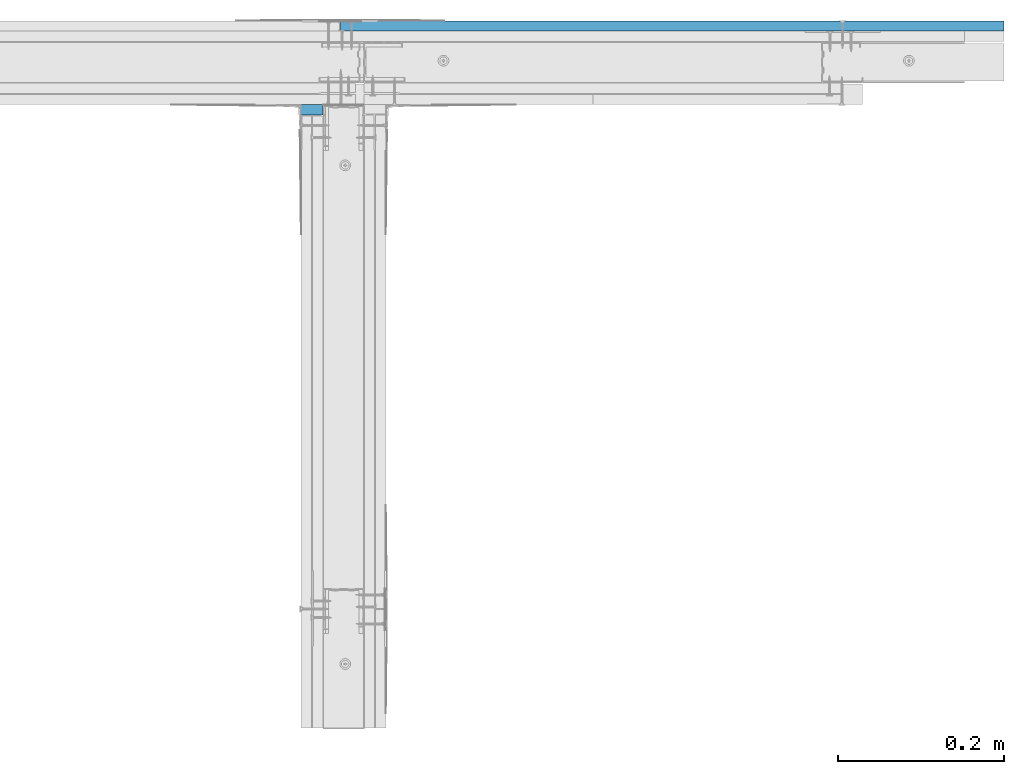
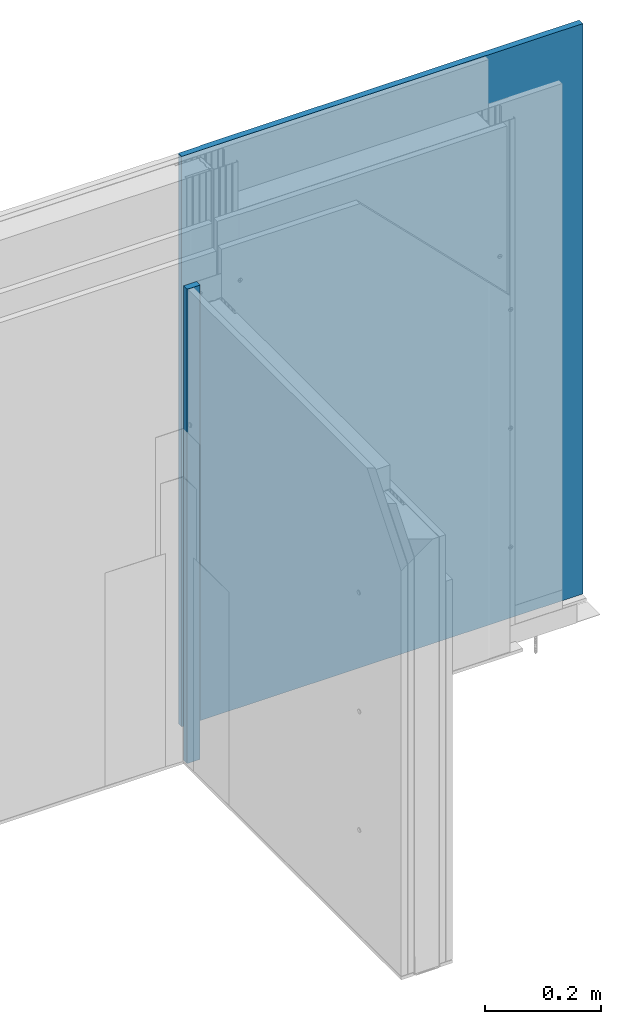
# One storey, part 6 of 95: 2 walls.
"""IFC2X3 building model written with IfcOpenShell, lengths in millimetres."""

from ifc_helpers import new_model, entity, si_unit, converted_unit, direction, frame, origin, origin_with_axes, place, context, project, spatial, faceted_brep, element, save


model = new_model("IFC2X3")

# Units and contexts
model_context = context("Model", 3, precision=1e-05, world=origin(), true_north=direction((0.0, 1.0, 0.0)))
ifc_project = project(units=[si_unit("LENGTHUNIT", "METRE", prefix="MILLI"), si_unit("AREAUNIT", "SQUARE_METRE"), si_unit("VOLUMEUNIT", "CUBIC_METRE"), converted_unit("PLANEANGLEUNIT", "DEGREE", entity("IfcPlaneAngleMeasure", 0.01745), si_unit("PLANEANGLEUNIT", "RADIAN"), dimensions=[0, 0, 0, 0, 0, 0, 0]), si_unit("SOLIDANGLEUNIT", "STERADIAN"), si_unit("MASSUNIT", "GRAM"), si_unit("TIMEUNIT", "SECOND"), si_unit("THERMODYNAMICTEMPERATUREUNIT", "DEGREE_CELSIUS"), si_unit("LUMINOUSINTENSITYUNIT", "LUMEN")], contexts=[model_context])

# Site, building, storey
site_placement = place(None, origin_with_axes())
site = spatial("IfcSite", under=ifc_project, at=site_placement, Name="Default Site", CompositionType="ELEMENT")
building_placement = place(site_placement, origin_with_axes())
building = spatial("IfcBuilding", under=site, at=building_placement, Name="Default Building", CompositionType="ELEMENT")
storey_placement = place(building_placement, origin_with_axes())
storey = spatial("IfcBuildingStorey", under=building, at=storey_placement, Name="Default Building Storey", CompositionType="ELEMENT", Elevation=0.0)

# Walls
wall_1_placement = place(storey_placement, frame((2790.120278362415, 2010.770002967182, -205.1555179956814), z_axis=(-2.220446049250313e-16, 1.0, -8.881784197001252e-16), x_axis=(1.97215226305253e-31, -8.881784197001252e-16, -1.0)))
element("IfcWall", 1, at=wall_1_placement, inside=storey, Name="Dedykowana masa szpachlowa Rigips - konstrukcyjna", context=model_context, shape_type="Brep", body=[
    faceted_brep([(-215.1539363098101, 24.6461696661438, -0.9999999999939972), (-215.1539363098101, -1.353830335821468, -0.9999999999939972), (-1213.404515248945, -1.353830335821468, -0.9999999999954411), (-1213.404515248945, 24.6461696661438, -0.9999999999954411), (-215.1539363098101, -1.353830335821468, 11.37091977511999), (-1213.404515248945, -1.353830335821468, 11.37091977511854), (-215.1539363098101, 24.6461696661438, 11.37091977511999), (-1213.404515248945, 24.6461696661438, 11.37091977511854)], [[[0, 1, 2, 3]], [[1, 4, 5, 2]], [[4, 6, 7, 5]], [[6, 0, 3, 7]], [[7, 3, 2, 5]], [[0, 6, 4, 1]]]),
])
wall_2_placement = place(storey_placement, frame((2812.544899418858, 2110.601767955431, 1155.534172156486), z_axis=(0.0, 0.0, 1.0), x_axis=(1.0, 0.0, 0.0)))
element("IfcWall", 2, at=wall_2_placement, inside=storey, Name="Płyta gipsowo-kartonowa RIGIPS PRO (4PRO™)", context=model_context, shape_type="Brep", body=[
    faceted_brep([(798.6109695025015, 12.49999999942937, 54.46582784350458), (798.610969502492, -5.428773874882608e-10, 54.46582784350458), (798.610969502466, -5.396287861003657e-10, -1145.535753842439), (798.6109695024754, 12.49999999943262, -1145.535753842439), (44.99999999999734, 12.50000000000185, 54.46582784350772), (40.99999999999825, 11.50000000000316, 54.46582784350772), (0.9999999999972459, 11.50000000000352, 54.46582784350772), (0.7411809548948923, 11.46592582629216, 54.46582784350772), (0.4999999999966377, 11.36602540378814, 54.46582784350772), (0.2928932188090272, 11.20710678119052, 54.46582784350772), (0.1339745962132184, 11.00000000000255, 54.46582784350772), (0.0340741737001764, 10.75881904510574, 54.46582784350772), (-3.248601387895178e-12, 10.50000000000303, 54.46582784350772), (-1.082867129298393e-12, -3.609557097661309e-13, 54.46582784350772), (44.99999999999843, 12.50000000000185, -1145.53575384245), (40.99999999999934, 11.50000000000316, -1145.53575384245), (0.9999999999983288, 11.50000000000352, -1145.53575384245), (0.7411809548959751, 11.46592582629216, -1145.53575384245), (0.4999999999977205, 11.36602540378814, -1145.53575384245), (0.29289321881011, 11.20710678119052, -1145.53575384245), (0.1339745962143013, 11.00000000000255, -1145.53575384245), (0.03407417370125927, 10.75881904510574, -1145.53575384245), (-2.165734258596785e-12, 10.50000000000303, -1145.53575384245), (0.0, -3.609557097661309e-13, -1145.53575384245)], [[[0, 1, 2, 3]], [[0, 4, 5, 6, 7, 8, 9, 10, 11, 12, 13, 1]], [[3, 14, 4, 0]], [[5, 4, 14, 15]], [[6, 5, 15, 16]], [[7, 6, 16, 17]], [[8, 7, 17, 18]], [[9, 8, 18, 19]], [[10, 9, 19, 20]], [[11, 10, 20, 21]], [[12, 11, 21, 22]], [[13, 12, 22, 23]], [[2, 1, 13, 23]], [[14, 3, 2, 23, 22, 21, 20, 19, 18, 17, 16, 15]]]),
])

save(model, "model.ifc")
